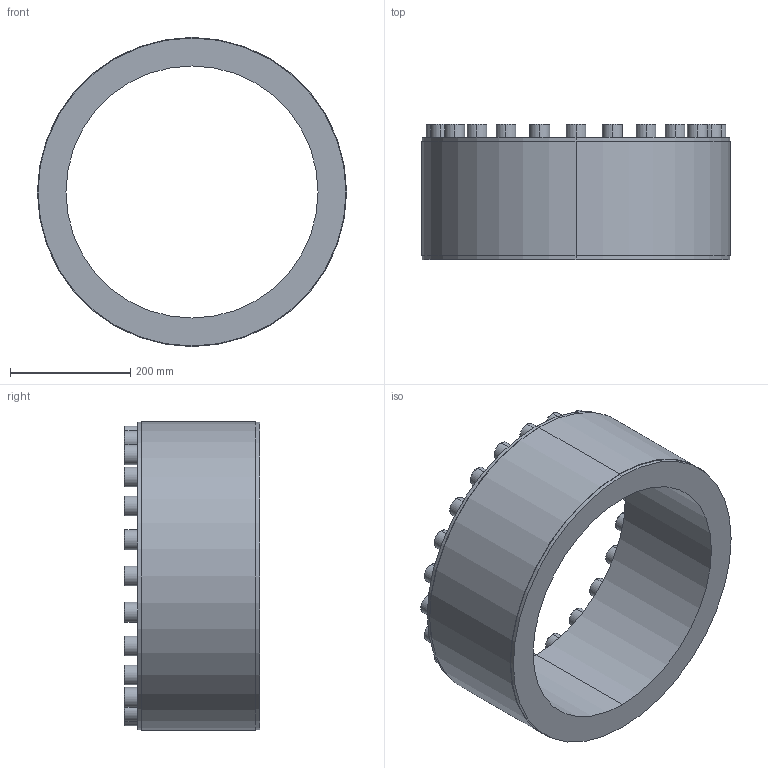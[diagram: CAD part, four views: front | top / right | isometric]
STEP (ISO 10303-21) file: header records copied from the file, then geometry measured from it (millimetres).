
FILE_DESCRIPTION (( 'STEP AP203' ), '1' );
FILE_NAME ('PL-D1 420-515.STEP', '2021-10-23T00:26:47', ( '' ), ( '' ), 'SwSTEP 2.0', 'SolidWorks 2018', '' );
FILE_SCHEMA (( 'CONFIG_CONTROL_DESIGN' ));
Length unit declared in the file: millimetre
Products named in the file (1): PL-D1 420-515
Bounding box: 515 x 225 x 515 mm (x, y, z)
Volume: 14526286 mm3; surface area: 805483.7 mm2
Topology: 1 solids, 1 shells, 300 faces, 696 edges, 448 vertices
Faces by surface type: plane 196, cylinder 56, torus 48
Entity records: 8565 total; most frequent: DIRECTION 1506, CARTESIAN_POINT 1445, ORIENTED_EDGE 1392, EDGE_CURVE 696, AXIS2_PLACEMENT_3D 509, VECTOR 488, LINE 488, VERTEX_POINT 448
